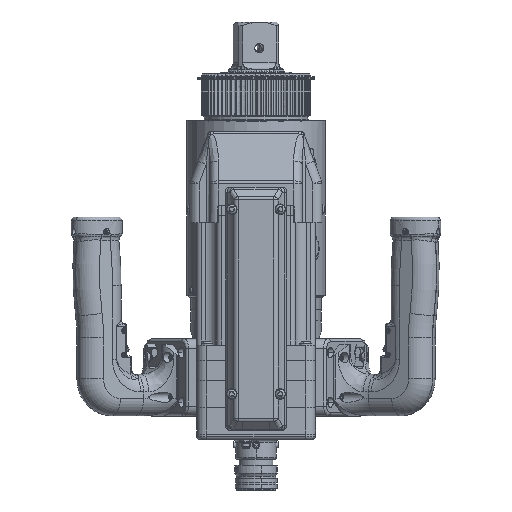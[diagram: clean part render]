
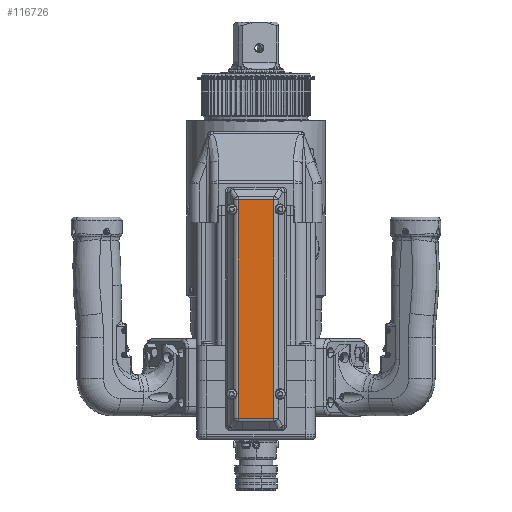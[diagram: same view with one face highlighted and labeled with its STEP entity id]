
A CAD part, front view. The second image highlights one B-rep face of the part: STEP entity #116726.
In plain terms, the highlighted planar face has unit normal (0, -1, 0).
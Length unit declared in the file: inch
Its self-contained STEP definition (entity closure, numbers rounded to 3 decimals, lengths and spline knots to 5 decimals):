
#302 = VECTOR ( 'NONE', #133523, 39.37008 ) ;
#1427 = ORIENTED_EDGE ( 'NONE', *, *, #22751, .T. ) ;
#4681 = CARTESIAN_POINT ( 'NONE',  ( 0.65932, -6.517, 2.08172 ) ) ;
#9271 = CARTESIAN_POINT ( 'NONE',  ( -0.65886, -6.517, -6.01285 ) ) ;
#13584 = CARTESIAN_POINT ( 'NONE',  ( -0.65827, -6.517, 2.08182 ) ) ;
#20831 = VECTOR ( 'NONE', #201421, 39.37008 ) ;
#21253 = VECTOR ( 'NONE', #201139, 39.37008 ) ;
#21876 = EDGE_LOOP ( 'NONE', ( #155196, #229168, #228735, #1427 ) ) ;
#22751 = EDGE_CURVE ( 'NONE', #189136, #26275, #206381, .T. ) ;
#26275 = VERTEX_POINT ( 'NONE', #9271 ) ;
#41439 = CARTESIAN_POINT ( 'NONE',  ( -0.77707, -6.517, 2.08183 ) ) ;
#41720 = CARTESIAN_POINT ( 'NONE',  ( -0.77766, -6.517, -6.01284 ) ) ;
#44870 = CARTESIAN_POINT ( 'NONE',  ( 0.65873, -6.517, -6.01295 ) ) ;
#53604 = EDGE_CURVE ( 'NONE', #181696, #189136, #185499, .T. ) ;
#64934 = CARTESIAN_POINT ( 'NONE',  ( 0.65935, -6.517, 2.53439 ) ) ;
#72972 = EDGE_CURVE ( 'NONE', #26275, #234738, #122172, .T. ) ;
#105140 = LINE ( 'NONE', #64934, #129379 ) ;
#116726 = ADVANCED_FACE ( 'NONE', ( #217570 ), #156593, .F. ) ;
#122172 = LINE ( 'NONE', #41720, #20831 ) ;
#125451 = EDGE_CURVE ( 'NONE', #234738, #181696, #105140, .T. ) ;
#129379 = VECTOR ( 'NONE', #141532, 39.37008 ) ;
#133523 = DIRECTION ( 'NONE',  ( 0., 0., -1. ) ) ;
#141532 = DIRECTION ( 'NONE',  ( 0., 0., 1. ) ) ;
#144741 = CARTESIAN_POINT ( 'NONE',  ( -0.77703, -6.517, 2.53449 ) ) ;
#155196 = ORIENTED_EDGE ( 'NONE', *, *, #72972, .T. ) ;
#156593 = PLANE ( 'NONE',  #223061 ) ;
#181696 = VERTEX_POINT ( 'NONE', #4681 ) ;
#185499 = LINE ( 'NONE', #41439, #21253 ) ;
#186860 = CARTESIAN_POINT ( 'NONE',  ( -0.65824, -6.517, 2.53448 ) ) ;
#189136 = VERTEX_POINT ( 'NONE', #13584 ) ;
#201139 = DIRECTION ( 'NONE',  ( -1., 0., 0. ) ) ;
#201421 = DIRECTION ( 'NONE',  ( 1., 0., 0. ) ) ;
#206381 = LINE ( 'NONE', #186860, #302 ) ;
#217570 = FACE_OUTER_BOUND ( 'NONE', #21876, .T. ) ;
#223061 = AXIS2_PLACEMENT_3D ( 'NONE', #144741, #243473, #246037 ) ;
#228735 = ORIENTED_EDGE ( 'NONE', *, *, #53604, .T. ) ;
#229168 = ORIENTED_EDGE ( 'NONE', *, *, #125451, .T. ) ;
#234738 = VERTEX_POINT ( 'NONE', #44870 ) ;
#243473 = DIRECTION ( 'NONE',  ( 0., 1., 0. ) ) ;
#246037 = DIRECTION ( 'NONE',  ( 0., 0., 1. ) ) ;
